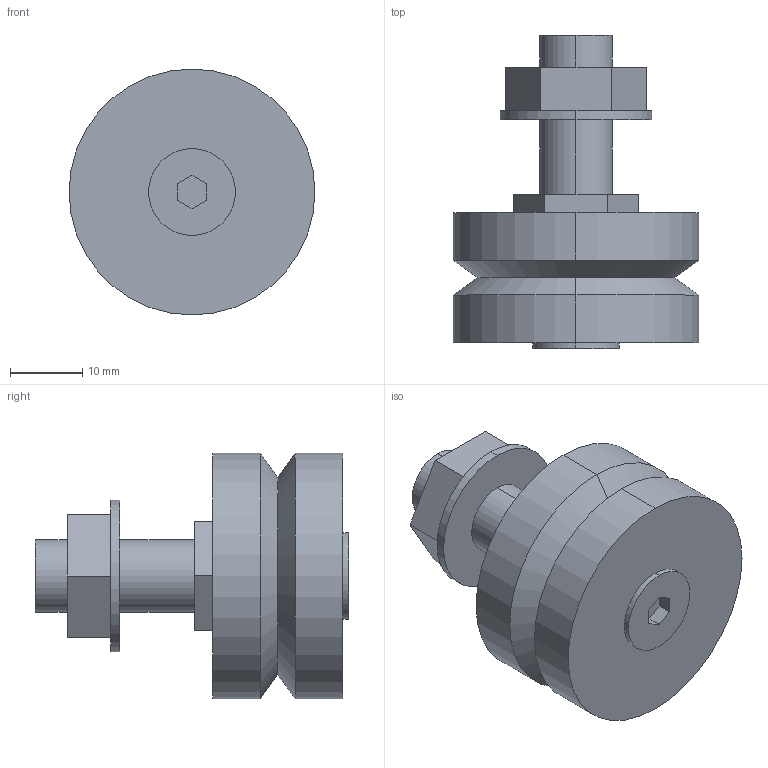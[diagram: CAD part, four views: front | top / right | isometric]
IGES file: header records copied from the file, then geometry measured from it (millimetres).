
Start section: 3D InterOp IGES (v. 2019 1.0.2), Spatial Corp. Copyright (c) 1999-2017.
Global section: file name: LJ 34 C.igs; native system: Spatial Corp.; preprocessor: 3D InterOp GENERIC/IGES 3.0; author: Noname; organization: Noname; date: 20220628.165352; units: millimetre
Bounding box: 34 x 43.3 x 34 mm (x, y, z)
Surface area: 5652.6 mm2 (no closed solid volume)
Topology: 0 solids, 0 shells, 43 faces, 192 edges, 192 vertices
Faces by surface type: extrusion 27, revolution 16
